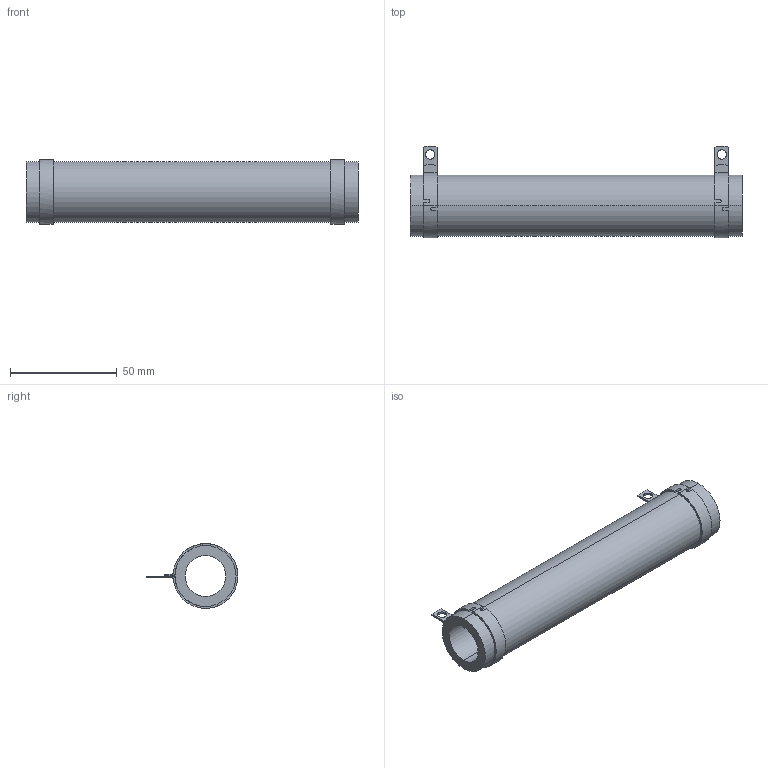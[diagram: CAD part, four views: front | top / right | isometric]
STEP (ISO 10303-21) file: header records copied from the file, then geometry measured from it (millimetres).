
FILE_DESCRIPTION (( 'STEP AP203' ), '1' );
FILE_NAME ('RBEF0225xxxxxKFB00.STEP', '2014-04-04T18:50:36', ( '' ), ( '' ), 'SwSTEP 2.0', 'SolidWorks 2012', '' );
FILE_SCHEMA (( 'CONFIG_CONTROL_DESIGN' ));
Length unit declared in the file: millimetre
Products named in the file (3): DAL013-06_DAL013-153; DAL15-160-XXX_DAL15-160-918-CLOSED; RBEF0225xxxxxKFB00
Assembly tree (3 placements, depth 2):
  RBEF0225xxxxxKFB00
    DAL013-06_DAL013-153
    DAL15-160-XXX_DAL15-160-918-CLOSED  x2
Bounding box: 155.57 x 43.03 x 30.35 mm (x, y, z)
Volume: 56609.4 mm3; surface area: 27096 mm2
Topology: 3 solids, 3 shells, 80 faces, 190 edges, 116 vertices
Faces by surface type: plane 42, cylinder 34, bspline 4
Entity records: 1692 total; most frequent: CARTESIAN_POINT 352, DIRECTION 229, ORIENTED_EDGE 202, EDGE_CURVE 101, AXIS2_PLACEMENT_3D 89, VERTEX_POINT 62, LINE 51, VECTOR 51
